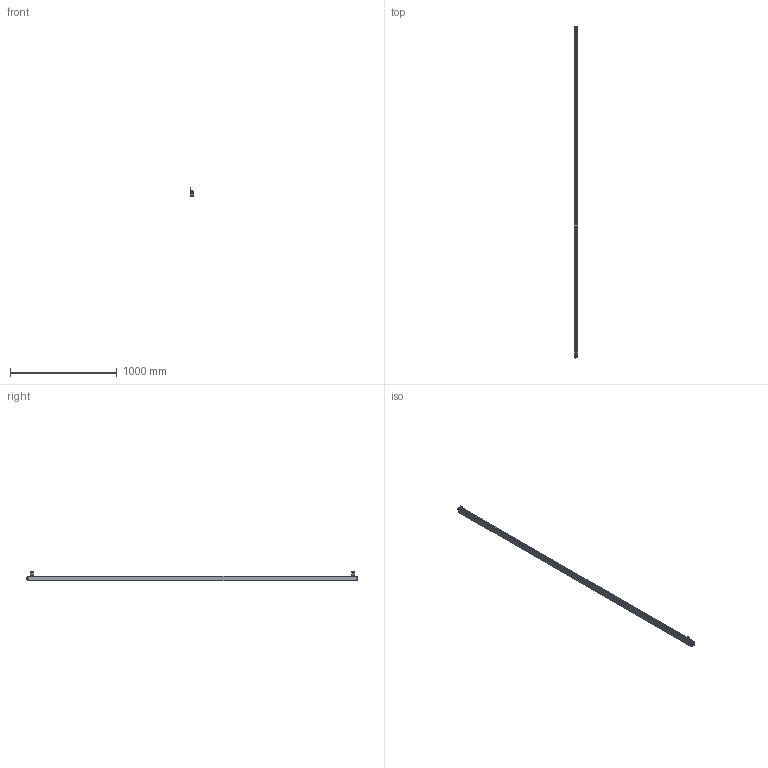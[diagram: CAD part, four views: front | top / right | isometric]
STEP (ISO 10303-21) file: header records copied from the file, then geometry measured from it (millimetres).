
FILE_DESCRIPTION((''),'2;1');
FILE_NAME('ESCL-00_ASM','2021-07-17T11:20:53',('18720616900'),(''),'CREO PARAMETRIC BY PTC INC, 2019010','CREO PARAMETRIC BY PTC INC, 2019010','');
FILE_SCHEMA(('CONFIG_CONTROL_DESIGN'));
Products named in the file (12): ESCL-00; ESCL-3-SOLID1000; ESCL-4-SOLID1000; HKCT1_-4-SOLID1; L10001; M6-8--0001; M6-1--00; M6-1-00; 00; M6-80001_ASM; L1--0001_ASM; ESCL-00_ASM
Assembly tree (12 placements, depth 4):
  ESCL-00_ASM
    ESCL-00
    ESCL-3-SOLID1000
    ESCL-4-SOLID1000
    HKCT1_-4-SOLID1
    L1--0001_ASM  x2
      L10001
      M6-80001_ASM
        M6-8--0001
        M6-1--00
        M6-1-00
        00
Bounding box: 36.1 x 3105.1 x 91.11 mm (x, y, z)
Volume: 4431207.3 mm3; surface area: 629436.4 mm2
Topology: 14 solids, 14 shells, 625 faces, 1633 edges, 1058 vertices
Faces by surface type: plane 226, cylinder 208, cone 78, bspline 66, torus 47
Entity records: 76061 total; most frequent: CARTESIAN_POINT 63983, ORIENTED_EDGE 2640, DIRECTION 2243, EDGE_CURVE 1320, VERTEX_POINT 860, AXIS2_PLACEMENT_3D 800, VECTOR 643, LINE 643
